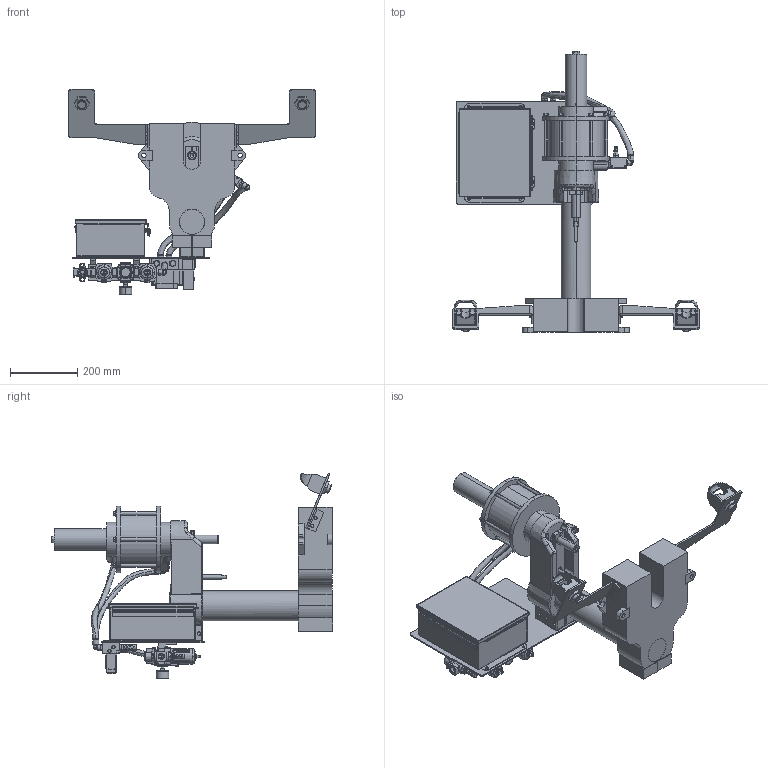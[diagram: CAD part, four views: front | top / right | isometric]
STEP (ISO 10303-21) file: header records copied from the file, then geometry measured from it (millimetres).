
FILE_DESCRIPTION (( 'STEP AP214' ), '1' );
FILE_NAME ('28-A-DS PRESS.STEP', '2024-07-29T14:14:00', ( '' ), ( '' ), 'SwSTEP 2.0', 'SolidWorks 2018', '' );
FILE_SCHEMA (( 'AUTOMOTIVE_DESIGN' ));
Length unit declared in the file: inch
Products named in the file (7): POWER SYSTEM; 28A PRESS; 28-A-DS PRESS; DOWNSTOP OPTION; 28A ADJUSTABLE DOWNSTOP; EDP-1 CONTROL PACKAGE; LOGIC SYSTEM
Assembly tree (6 placements, depth 3):
  28-A-DS PRESS
    EDP-1 CONTROL PACKAGE
      LOGIC SYSTEM
      POWER SYSTEM
    28A PRESS
    DOWNSTOP OPTION
      28A ADJUSTABLE DOWNSTOP
Bounding box: 730.24 x 834.05 x 608.45 mm (x, y, z)
Volume: 18123348.2 mm3; surface area: 2287589.9 mm2
Topology: 79 solids, 79 shells, 3370 faces, 8885 edges, 5658 vertices
Faces by surface type: plane 1430, cylinder 1111, cone 600, bspline 177, torus 32, sphere 20
Entity records: 180788 total; most frequent: CARTESIAN_POINT 55254, ORIENTED_EDGE 17554, DIRECTION 15626, EDGE_CURVE 8777, AXIS2_PLACEMENT_3D 5668, VERTEX_POINT 5654, VECTOR 4290, LINE 4290
